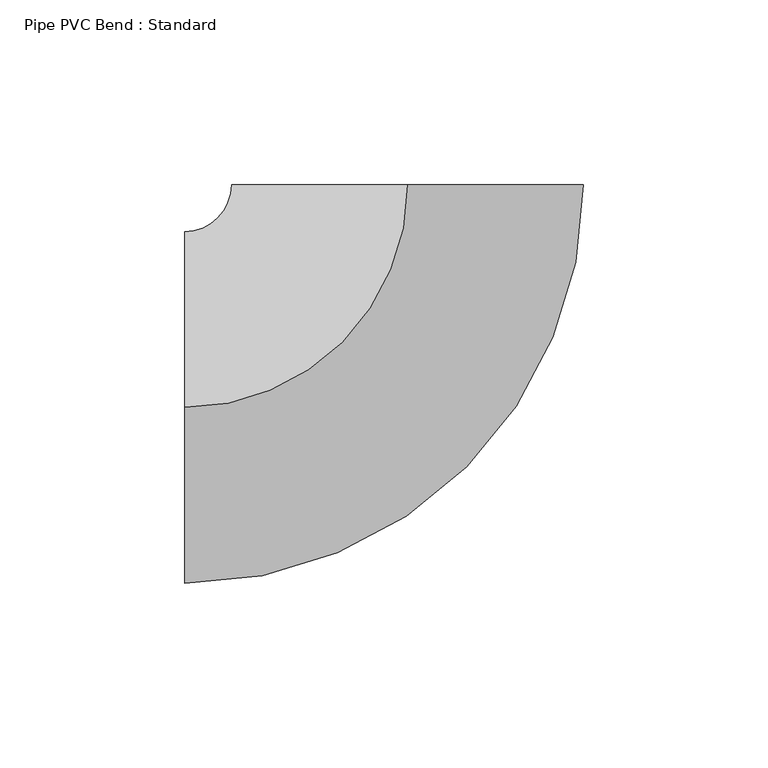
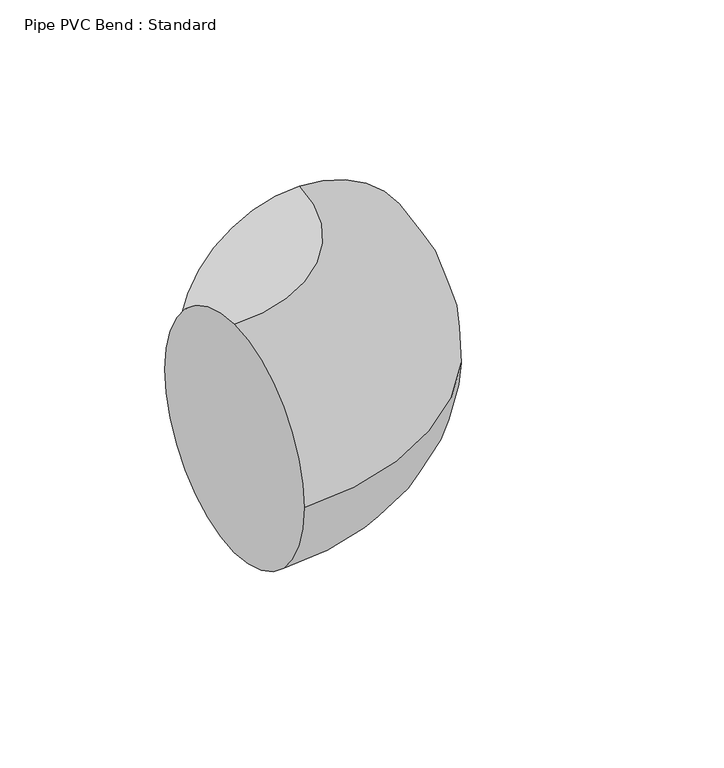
"""IFC4 building model written with IfcOpenShell, lengths in millimetres: pipe fitting geometry, Pipe PVC Bend : Standard."""

from ifc_helpers import new_model, si_unit, point, frame, origin, place, context, project, spatial, circle_curve, ellipse_curve, trimmed, source, transform, mapped, element, save
from ifc_brep_helpers import plane_surface, revolved_surface, advanced_brep


def pipe_pvc_bend_standard_9d146105(model_context):
    return source(origin(), model_context, "Body", "AdvancedBrep", [
        advanced_brep(
        [(-60.318466, 0.0, 47.625), (-60.318466, 47.625, 0.0), (-60.318466, 0.0, -47.625), (-60.318466, -47.625, 0.0), (0.0065336, 60.3184657, 47.625), (47.6315334, 60.313307, 0.0), (0.0065336, 60.3184657, -47.625), (-47.6184661, 60.3236243, 0.0)],
        [
            (0, 1, circle_curve(frame((-60.318466, 0.0, 0.0), z_axis=(-1.0, 0.0, 0.0), x_axis=(0.0, 1.0, 0.0)), 47.625)),
            (1, 2, circle_curve(frame((-60.318466, 0.0, 0.0), z_axis=(-1.0, 0.0, 0.0), x_axis=(0.0, 1.0, 0.0)), 47.625)),
            (2, 3, circle_curve(frame((-60.318466, 0.0, 0.0), z_axis=(-1.0, 0.0, 0.0), x_axis=(0.0, 1.0, 0.0)), 47.625)),
            (3, 0, circle_curve(frame((-60.318466, 0.0, 0.0), z_axis=(-1.0, 0.0, 0.0), x_axis=(0.0, 1.0, 0.0)), 47.625)),
            (4, 5, circle_curve(frame((0.0065336, 60.3184657, 0.0), z_axis=(0.00010831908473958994, 0.999999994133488, 0.0), x_axis=(-0.999999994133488, 0.00010831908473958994, 0.0)), 47.625)),
            (5, 6, circle_curve(frame((0.0065336, 60.3184657, 0.0), z_axis=(0.00010831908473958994, 0.999999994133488, 0.0), x_axis=(-0.999999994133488, 0.00010831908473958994, 0.0)), 47.625)),
            (6, 7, circle_curve(frame((0.0065336, 60.3184657, 0.0), z_axis=(0.00010831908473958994, 0.999999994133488, 0.0), x_axis=(-0.999999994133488, 0.00010831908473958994, 0.0)), 47.625)),
            (7, 4, circle_curve(frame((0.0065336, 60.3184657, 0.0), z_axis=(0.00010831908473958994, 0.999999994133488, 0.0), x_axis=(-0.999999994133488, 0.00010831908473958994, 0.0)), 47.625)),
            (7, 1, circle_curve(frame((-60.318466, 60.325, 0.0), z_axis=(0.0, 0.0, -1.0), x_axis=(0.0, -1.0, 0.0)), 12.7)),
            (0, 4, circle_curve(frame((-60.318466, 60.325, 47.625), z_axis=(0.0, 0.0, 1.0), x_axis=(0.0, -1.0, 0.0)), 60.325)),
            (6, 2, circle_curve(frame((-60.318466, 60.325, -47.625), z_axis=(0.0, 0.0, -1.0), x_axis=(0.0, -1.0, 0.0)), 60.325)),
            (5, 3, circle_curve(frame((-60.318466, 60.325, 0.0), z_axis=(0.0, 0.0, -1.0), x_axis=(0.0, -1.0, 0.0)), 107.95)),
        ],
        [
            plane_surface(frame((-60.318466, 0.0, 0.0), z_axis=(-1.0, 0.0, 0.0), x_axis=(0.0, 0.0, 1.0))),
            plane_surface(frame((0.0065336, 60.3184657, 0.0), z_axis=(0.00010831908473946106, 0.999999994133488, 0.0), x_axis=(0.0, 0.0, 1.0))),
            revolved_surface(trimmed(ellipse_curve(frame((-60.318466, 0.0, 0.0), z_axis=(-1.0, 0.0, 0.0), x_axis=(0.0, 1.0, 0.0)), 47.625, 47.625), [point((-60.318466, 0.0, 47.625))], [point((-60.318466, 47.625, 0.0))], True, "CARTESIAN"), (-60.318466, 60.325, 0.0), (0.0, 0.0, 1.0)),
            revolved_surface(trimmed(ellipse_curve(frame((-60.318466, 0.0, 0.0), z_axis=(-1.0, 0.0, 0.0), x_axis=(0.0, 1.0, 0.0)), 47.625, 47.625), [point((-60.318466, 47.625, 0.0))], [point((-60.318466, 0.0, -47.625))], True, "CARTESIAN"), (-60.318466, 60.325, 0.0), (0.0, 0.0, 1.0)),
            revolved_surface(trimmed(ellipse_curve(frame((-60.318466, 0.0, 0.0), z_axis=(-1.0, 0.0, 0.0), x_axis=(0.0, 1.0, 0.0)), 47.625, 47.625), [point((-60.318466, 0.0, -47.625))], [point((-60.318466, -47.625, 0.0))], True, "CARTESIAN"), (-60.318466, 60.325, 0.0), (0.0, 0.0, 1.0)),
            revolved_surface(trimmed(ellipse_curve(frame((-60.318466, 0.0, 0.0), z_axis=(-1.0, 0.0, 0.0), x_axis=(0.0, 1.0, 0.0)), 47.625, 47.625), [point((-60.318466, -47.625, 0.0))], [point((-60.318466, 0.0, 47.625))], True, "CARTESIAN"), (-60.318466, 60.325, 0.0), (0.0, 0.0, 1.0)),
        ],
        [
            (0, [[1, 2, 3, 4]]),
            (1, [[5, 6, 7, 8]]),
            (2, [[9, -1, 10, -8]]),
            (3, [[11, -2, -9, -7]]),
            (4, [[12, -3, -11, -6]]),
            (5, [[-10, -4, -12, -5]]),
        ],
    ),
        advanced_brep(
        [(-60.318466, 0.0, 47.625), (-60.318466, 47.625, 0.0), (-60.318466, 0.0, -47.625), (-60.318466, -47.625, 0.0), (0.0065336, 60.3184657, 47.625), (47.6315334, 60.313307, 0.0), (0.0065336, 60.3184657, -47.625), (-47.6184661, 60.3236243, 0.0)],
        [
            (0, 1, circle_curve(frame((-60.318466, 0.0, 0.0), z_axis=(-1.0, 0.0, 0.0), x_axis=(0.0, 1.0, 0.0)), 47.625)),
            (1, 2, circle_curve(frame((-60.318466, 0.0, 0.0), z_axis=(-1.0, 0.0, 0.0), x_axis=(0.0, 1.0, 0.0)), 47.625)),
            (2, 3, circle_curve(frame((-60.318466, 0.0, 0.0), z_axis=(-1.0, 0.0, 0.0), x_axis=(0.0, 1.0, 0.0)), 47.625)),
            (3, 0, circle_curve(frame((-60.318466, 0.0, 0.0), z_axis=(-1.0, 0.0, 0.0), x_axis=(0.0, 1.0, 0.0)), 47.625)),
            (4, 5, circle_curve(frame((0.0065336, 60.3184657, 0.0), z_axis=(0.00010831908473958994, 0.999999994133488, 0.0), x_axis=(-0.999999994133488, 0.00010831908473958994, 0.0)), 47.625)),
            (5, 6, circle_curve(frame((0.0065336, 60.3184657, 0.0), z_axis=(0.00010831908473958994, 0.999999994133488, 0.0), x_axis=(-0.999999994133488, 0.00010831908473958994, 0.0)), 47.625)),
            (6, 7, circle_curve(frame((0.0065336, 60.3184657, 0.0), z_axis=(0.00010831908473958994, 0.999999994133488, 0.0), x_axis=(-0.999999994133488, 0.00010831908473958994, 0.0)), 47.625)),
            (7, 4, circle_curve(frame((0.0065336, 60.3184657, 0.0), z_axis=(0.00010831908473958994, 0.999999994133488, 0.0), x_axis=(-0.999999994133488, 0.00010831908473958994, 0.0)), 47.625)),
            (7, 1, circle_curve(frame((-60.318466, 60.325, 0.0), z_axis=(0.0, 0.0, -1.0), x_axis=(0.0, -1.0, 0.0)), 12.7)),
            (0, 4, circle_curve(frame((-60.318466, 60.325, 47.625), z_axis=(0.0, 0.0, 1.0), x_axis=(0.0, -1.0, 0.0)), 60.325)),
            (6, 2, circle_curve(frame((-60.318466, 60.325, -47.625), z_axis=(0.0, 0.0, -1.0), x_axis=(0.0, -1.0, 0.0)), 60.325)),
            (5, 3, circle_curve(frame((-60.318466, 60.325, 0.0), z_axis=(0.0, 0.0, -1.0), x_axis=(0.0, -1.0, 0.0)), 107.95)),
        ],
        [
            plane_surface(frame((-60.318466, 0.0, 0.0), z_axis=(-1.0, 0.0, 0.0), x_axis=(0.0, 0.0, 1.0))),
            plane_surface(frame((0.0065336, 60.3184657, 0.0), z_axis=(0.00010831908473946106, 0.999999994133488, 0.0), x_axis=(0.0, 0.0, 1.0))),
            revolved_surface(trimmed(ellipse_curve(frame((-60.318466, 0.0, 0.0), z_axis=(-1.0, 0.0, 0.0), x_axis=(0.0, 1.0, 0.0)), 47.625, 47.625), [point((-60.318466, 0.0, 47.625))], [point((-60.318466, 47.625, 0.0))], True, "CARTESIAN"), (-60.318466, 60.325, 0.0), (0.0, 0.0, 1.0)),
            revolved_surface(trimmed(ellipse_curve(frame((-60.318466, 0.0, 0.0), z_axis=(-1.0, 0.0, 0.0), x_axis=(0.0, 1.0, 0.0)), 47.625, 47.625), [point((-60.318466, 47.625, 0.0))], [point((-60.318466, 0.0, -47.625))], True, "CARTESIAN"), (-60.318466, 60.325, 0.0), (0.0, 0.0, 1.0)),
            revolved_surface(trimmed(ellipse_curve(frame((-60.318466, 0.0, 0.0), z_axis=(-1.0, 0.0, 0.0), x_axis=(0.0, 1.0, 0.0)), 47.625, 47.625), [point((-60.318466, 0.0, -47.625))], [point((-60.318466, -47.625, 0.0))], True, "CARTESIAN"), (-60.318466, 60.325, 0.0), (0.0, 0.0, 1.0)),
            revolved_surface(trimmed(ellipse_curve(frame((-60.318466, 0.0, 0.0), z_axis=(-1.0, 0.0, 0.0), x_axis=(0.0, 1.0, 0.0)), 47.625, 47.625), [point((-60.318466, -47.625, 0.0))], [point((-60.318466, 0.0, 47.625))], True, "CARTESIAN"), (-60.318466, 60.325, 0.0), (0.0, 0.0, 1.0)),
        ],
        [
            (0, [[1, 2, 3, 4]]),
            (1, [[5, 6, 7, 8]]),
            (2, [[9, -1, 10, -8]]),
            (3, [[11, -2, -9, -7]]),
            (4, [[12, -3, -11, -6]]),
            (5, [[-10, -4, -12, -5]]),
        ],
    ),
    ])


if __name__ == "__main__":
    model = new_model("IFC4")
    model_context = context("Model", 3, world=origin())
    ifc_project = project(units=[si_unit("LENGTHUNIT", "METRE", prefix="MILLI")], contexts=[model_context])
    site = spatial("IfcSite", under=ifc_project)
    building = spatial("IfcBuilding", under=site)
    placement = place(None, origin())
    pipe_pvc_bend_standard_shape = pipe_pvc_bend_standard_9d146105(model_context)
    element("IfcPipeFitting", 1, ObjectType="Pipe PVC Bend : Standard", at=placement, inside=building, context=model_context, shape_type="MappedRepresentation", body=[
        mapped(pipe_pvc_bend_standard_shape, transform((0.0, 0.0, 0.0), x_axis=(1.0, 0.0, 0.0), y_axis=(0.0, 1.0, 0.0), z_axis=(0.0, 0.0, 1.0))),
    ])
    save(model, "model.ifc")
